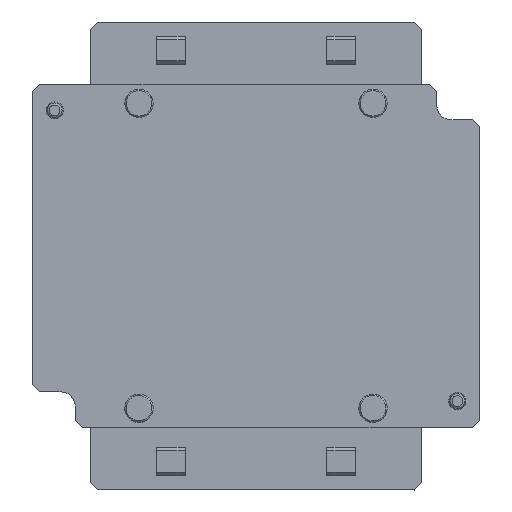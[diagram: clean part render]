
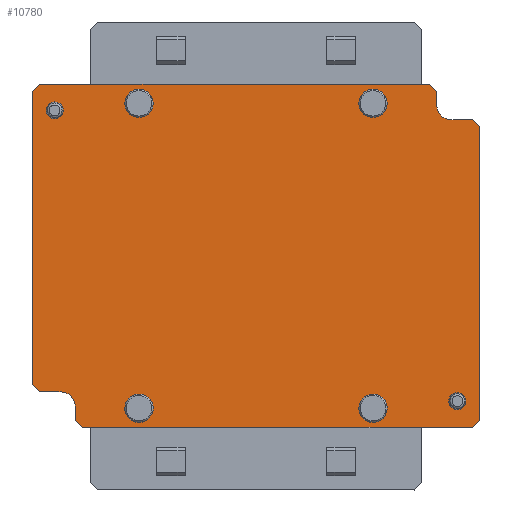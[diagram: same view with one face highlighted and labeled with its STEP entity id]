
A CAD part, top view. The second image highlights one B-rep face of the part: STEP entity #10780.
In plain terms, the highlighted planar face has unit normal (0, 0, 1).
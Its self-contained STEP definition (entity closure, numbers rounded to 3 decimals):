
#734=FACE_BOUND('',#2074,.T.);
#735=FACE_BOUND('',#2075,.T.);
#736=FACE_BOUND('',#2076,.T.);
#737=FACE_BOUND('',#2077,.T.);
#738=FACE_BOUND('',#2078,.T.);
#739=FACE_BOUND('',#2079,.T.);
#995=PLANE('',#11413);
#1450=FACE_OUTER_BOUND('',#2073,.T.);
#2073=EDGE_LOOP('',(#8214,#8215,#8216,#8217,#8218,#8219,#8220,#8221,#8222,
#8223,#8224,#8225,#8226,#8227,#8228,#8229));
#2074=EDGE_LOOP('',(#8230));
#2075=EDGE_LOOP('',(#8231));
#2076=EDGE_LOOP('',(#8232));
#2077=EDGE_LOOP('',(#8233));
#2078=EDGE_LOOP('',(#8234));
#2079=EDGE_LOOP('',(#8235));
#2754=LINE('',#14909,#3860);
#2759=LINE('',#14924,#3865);
#2762=LINE('',#14930,#3868);
#2796=LINE('',#15001,#3902);
#2798=LINE('',#15005,#3904);
#2801=LINE('',#15011,#3907);
#2804=LINE('',#15016,#3910);
#2806=LINE('',#15021,#3912);
#2808=LINE('',#15024,#3914);
#2809=LINE('',#15027,#3915);
#2811=LINE('',#15031,#3917);
#2813=LINE('',#15034,#3919);
#2814=LINE('',#15036,#3920);
#2815=LINE('',#15038,#3921);
#3860=VECTOR('',#12125,15.);
#3865=VECTOR('',#12138,15.);
#3868=VECTOR('',#12143,7.071);
#3902=VECTOR('',#12185,207.);
#3904=VECTOR('',#12189,7.071);
#3907=VECTOR('',#12194,7.071);
#3910=VECTOR('',#12199,275.);
#3912=VECTOR('',#12203,7.071);
#3914=VECTOR('',#12207,275.);
#3915=VECTOR('',#12210,7.071);
#3917=VECTOR('',#12214,207.);
#3919=VECTOR('',#12218,7.071);
#3920=VECTOR('',#12221,10.);
#3921=VECTOR('',#12224,10.);
#4964=CIRCLE('',#11276,10.);
#4966=CIRCLE('',#11280,10.);
#5006=CIRCLE('',#11414,10.);
#5007=CIRCLE('',#11415,10.);
#5008=CIRCLE('',#11416,10.);
#5009=CIRCLE('',#11417,10.);
#5010=CIRCLE('',#11418,6.);
#5011=CIRCLE('',#11419,6.);
#5214=VERTEX_POINT('',#14899);
#5215=VERTEX_POINT('',#14900);
#5218=VERTEX_POINT('',#14908);
#5220=VERTEX_POINT('',#14914);
#5221=VERTEX_POINT('',#14915);
#5224=VERTEX_POINT('',#14923);
#5226=VERTEX_POINT('',#14929);
#5259=VERTEX_POINT('',#15000);
#5260=VERTEX_POINT('',#15004);
#5261=VERTEX_POINT('',#15008);
#5262=VERTEX_POINT('',#15010);
#5263=VERTEX_POINT('',#15014);
#5264=VERTEX_POINT('',#15018);
#5265=VERTEX_POINT('',#15020);
#5266=VERTEX_POINT('',#15026);
#5267=VERTEX_POINT('',#15030);
#5548=VERTEX_POINT('',#15711);
#5549=VERTEX_POINT('',#15713);
#5550=VERTEX_POINT('',#15715);
#5551=VERTEX_POINT('',#15717);
#5552=VERTEX_POINT('',#15719);
#5553=VERTEX_POINT('',#15721);
#6234=EDGE_CURVE('',#5214,#5215,#4964,.T.);
#6238=EDGE_CURVE('',#5218,#5215,#2754,.T.);
#6241=EDGE_CURVE('',#5220,#5221,#4966,.T.);
#6245=EDGE_CURVE('',#5224,#5221,#2759,.T.);
#6248=EDGE_CURVE('',#5224,#5226,#2762,.T.);
#6284=EDGE_CURVE('',#5259,#5226,#2796,.T.);
#6286=EDGE_CURVE('',#5259,#5260,#2798,.T.);
#6289=EDGE_CURVE('',#5261,#5262,#2801,.T.);
#6292=EDGE_CURVE('',#5261,#5263,#2804,.T.);
#6294=EDGE_CURVE('',#5264,#5265,#2806,.T.);
#6296=EDGE_CURVE('',#5264,#5260,#2808,.T.);
#6297=EDGE_CURVE('',#5218,#5266,#2809,.T.);
#6299=EDGE_CURVE('',#5267,#5266,#2811,.T.);
#6301=EDGE_CURVE('',#5267,#5263,#2813,.T.);
#6302=EDGE_CURVE('',#5214,#5265,#2814,.T.);
#6303=EDGE_CURVE('',#5220,#5262,#2815,.T.);
#6616=EDGE_CURVE('',#5548,#5548,#5006,.T.);
#6617=EDGE_CURVE('',#5549,#5549,#5007,.T.);
#6618=EDGE_CURVE('',#5550,#5550,#5008,.T.);
#6619=EDGE_CURVE('',#5551,#5551,#5009,.T.);
#6620=EDGE_CURVE('',#5552,#5552,#5010,.T.);
#6621=EDGE_CURVE('',#5553,#5553,#5011,.T.);
#8214=ORIENTED_EDGE('',*,*,#6248,.F.);
#8215=ORIENTED_EDGE('',*,*,#6245,.T.);
#8216=ORIENTED_EDGE('',*,*,#6241,.F.);
#8217=ORIENTED_EDGE('',*,*,#6303,.T.);
#8218=ORIENTED_EDGE('',*,*,#6289,.F.);
#8219=ORIENTED_EDGE('',*,*,#6292,.T.);
#8220=ORIENTED_EDGE('',*,*,#6301,.F.);
#8221=ORIENTED_EDGE('',*,*,#6299,.T.);
#8222=ORIENTED_EDGE('',*,*,#6297,.F.);
#8223=ORIENTED_EDGE('',*,*,#6238,.T.);
#8224=ORIENTED_EDGE('',*,*,#6234,.F.);
#8225=ORIENTED_EDGE('',*,*,#6302,.T.);
#8226=ORIENTED_EDGE('',*,*,#6294,.F.);
#8227=ORIENTED_EDGE('',*,*,#6296,.T.);
#8228=ORIENTED_EDGE('',*,*,#6286,.F.);
#8229=ORIENTED_EDGE('',*,*,#6284,.T.);
#8230=ORIENTED_EDGE('',*,*,#6616,.T.);
#8231=ORIENTED_EDGE('',*,*,#6617,.T.);
#8232=ORIENTED_EDGE('',*,*,#6618,.T.);
#8233=ORIENTED_EDGE('',*,*,#6619,.T.);
#8234=ORIENTED_EDGE('',*,*,#6620,.T.);
#8235=ORIENTED_EDGE('',*,*,#6621,.T.);
#10780=ADVANCED_FACE('',(#1450,#734,#735,#736,#737,#738,#739),#995,.T.);
#11276=AXIS2_PLACEMENT_3D('',#14901,#12117,#12118);
#11280=AXIS2_PLACEMENT_3D('',#14916,#12130,#12131);
#11413=AXIS2_PLACEMENT_3D('',#15710,#12731,#12732);
#11414=AXIS2_PLACEMENT_3D('',#15712,#12733,#12734);
#11415=AXIS2_PLACEMENT_3D('',#15714,#12735,#12736);
#11416=AXIS2_PLACEMENT_3D('',#15716,#12737,#12738);
#11417=AXIS2_PLACEMENT_3D('',#15718,#12739,#12740);
#11418=AXIS2_PLACEMENT_3D('',#15720,#12741,#12742);
#11419=AXIS2_PLACEMENT_3D('',#15722,#12743,#12744);
#12117=DIRECTION('center_axis',(0.,0.,
1.));
#12118=DIRECTION('ref_axis',(-0.707,-0.707,0.));
#12125=DIRECTION('',(-1.,0.,0.));
#12130=DIRECTION('center_axis',(0.,0.,
1.));
#12131=DIRECTION('ref_axis',(0.707,0.707,0.));
#12138=DIRECTION('',(1.,0.,0.));
#12143=DIRECTION('',(-0.707,0.707,0.));
#12185=DIRECTION('',(0.,-1.,0.));
#12189=DIRECTION('',(0.707,0.707,0.));
#12194=DIRECTION('',(-0.707,0.707,0.));
#12199=DIRECTION('',(1.,0.,0.));
#12203=DIRECTION('',(0.707,-0.707,0.));
#12207=DIRECTION('',(-1.,0.,0.));
#12210=DIRECTION('',(0.707,-0.707,0.));
#12214=DIRECTION('',(0.,1.,0.));
#12218=DIRECTION('',(-0.707,-0.707,0.));
#12221=DIRECTION('',(0.,1.,0.));
#12224=DIRECTION('',(0.,-1.,0.));
#12731=DIRECTION('center_axis',(0.,0.,
1.));
#12732=DIRECTION('ref_axis',(-0.287,0.958,0.));
#12733=DIRECTION('center_axis',(0.,0.,
-1.));
#12734=DIRECTION('ref_axis',(0.219,0.976,0.));
#12735=DIRECTION('center_axis',(0.,0.,
-1.));
#12736=DIRECTION('ref_axis',(-1.,0.001,0.));
#12737=DIRECTION('center_axis',(0.,0.,
-1.));
#12738=DIRECTION('ref_axis',(-0.108,0.994,0.));
#12739=DIRECTION('center_axis',(0.,0.,
-1.));
#12740=DIRECTION('ref_axis',(-1.,0.001,0.));
#12741=DIRECTION('center_axis',(0.,0.,
-1.));
#12742=DIRECTION('ref_axis',(-1.,0.,0.));
#12743=DIRECTION('center_axis',(0.,0.,
-1.));
#12744=DIRECTION('ref_axis',(-1.,0.,0.));
#14899=CARTESIAN_POINT('',(127.5,106.,77.2));
#14900=CARTESIAN_POINT('',(137.5,96.,77.2));
#14901=CARTESIAN_POINT('Origin',(137.5,106.,77.2));
#14908=CARTESIAN_POINT('',(152.5,96.,77.2));
#14909=CARTESIAN_POINT('',(125.638,96.,77.2));
#14914=CARTESIAN_POINT('',(-127.5,-106.,77.2));
#14915=CARTESIAN_POINT('',(-137.5,-96.,77.2));
#14916=CARTESIAN_POINT('Origin',(-137.5,-106.,77.2));
#14923=CARTESIAN_POINT('',(-152.5,-96.,77.2));
#14924=CARTESIAN_POINT('',(-31.862,-96.,77.2));
#14929=CARTESIAN_POINT('',(-157.5,-91.,77.2));
#14930=CARTESIAN_POINT('',(-140.19,-108.31,77.2));
#15000=CARTESIAN_POINT('',(-157.5,116.,77.2));
#15001=CARTESIAN_POINT('',(-157.5,60.5,77.2));
#15004=CARTESIAN_POINT('',(-152.5,121.,77.2));
#15005=CARTESIAN_POINT('',(-98.423,175.077,77.2));
#15008=CARTESIAN_POINT('',(-122.5,-121.,77.2));
#15010=CARTESIAN_POINT('',(-127.5,-116.,77.2));
#15011=CARTESIAN_POINT('',(-123.94,-119.56,77.2));
#15014=CARTESIAN_POINT('',(152.5,-121.,77.2));
#15016=CARTESIAN_POINT('',(-78.75,-121.,77.2));
#15018=CARTESIAN_POINT('',(122.5,121.,77.2));
#15020=CARTESIAN_POINT('',(127.5,116.,77.2));
#15021=CARTESIAN_POINT('',(122.81,120.69,77.2));
#15024=CARTESIAN_POINT('',(78.75,121.,77.2));
#15026=CARTESIAN_POINT('',(157.5,91.,77.2));
#15027=CARTESIAN_POINT('',(139.06,109.44,77.2));
#15030=CARTESIAN_POINT('',(157.5,-116.,77.2));
#15031=CARTESIAN_POINT('',(157.5,-60.5,77.2));
#15034=CARTESIAN_POINT('',(193.327,-80.173,77.2));
#15036=CARTESIAN_POINT('',(127.5,96.017,77.2));
#15038=CARTESIAN_POINT('',(-127.5,0.017,77.2));
#15710=CARTESIAN_POINT('Origin',(93.776,96.034,77.2));
#15711=CARTESIAN_POINT('',(-80.306,-97.744,77.2));
#15712=CARTESIAN_POINT('Origin',(-82.5,-107.5,77.2));
#15713=CARTESIAN_POINT('',(72.5,107.509,77.2));
#15714=CARTESIAN_POINT('Origin',(82.5,107.5,77.2));
#15715=CARTESIAN_POINT('',(81.42,-97.559,77.2));
#15716=CARTESIAN_POINT('Origin',(82.5,-107.5,77.2));
#15717=CARTESIAN_POINT('',(-92.5,107.509,77.2));
#15718=CARTESIAN_POINT('Origin',(-82.5,107.5,77.2));
#15719=CARTESIAN_POINT('',(136.,-102.5,77.2));
#15720=CARTESIAN_POINT('Origin',(142.,-102.5,77.2));
#15721=CARTESIAN_POINT('',(-148.,102.5,77.2));
#15722=CARTESIAN_POINT('Origin',(-142.,102.5,77.2));
